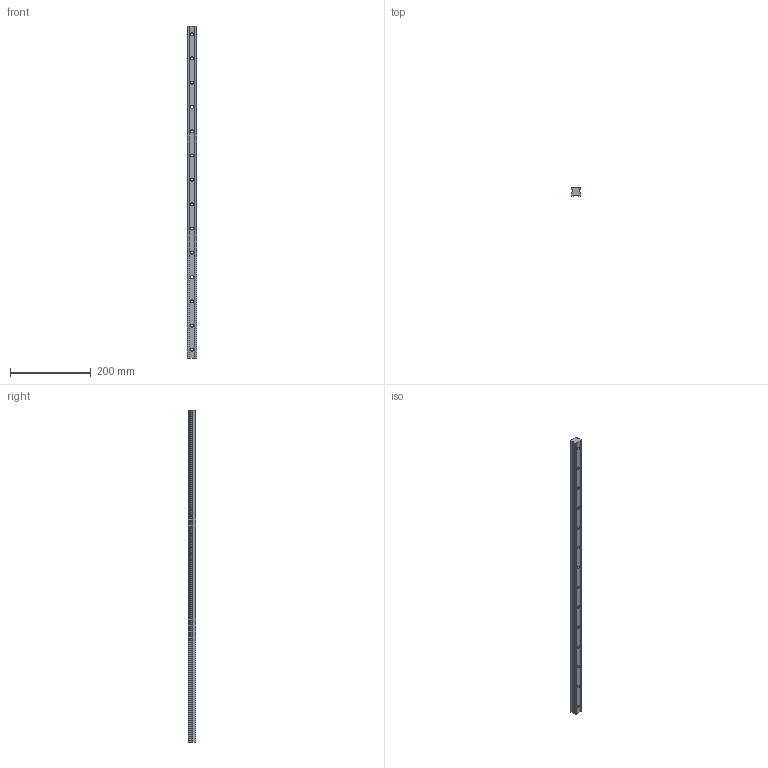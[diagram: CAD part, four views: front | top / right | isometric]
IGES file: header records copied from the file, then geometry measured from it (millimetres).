
Start section: SolidWorks IGES file using analytic representation for surfaces
Global section: file name: C:\Users\IanO\Desktop\L1016_v2\L1016.BL25_v2\L1016.BL25_v2_20160611_IGES\L1016.BL25-0820.igs; native system: SolidWorks 2017; preprocessor: SolidWorks 2017; author: IanO; date: 190612.130557; units: millimetre
Bounding box: 23 x 19.2 x 820 mm (x, y, z)
Surface area: 78251.1 mm2 (no closed solid volume)
Topology: 0 solids, 0 shells, 96 faces, 2184 edges, 2184 vertices
Faces by surface type: revolution 60, bspline 36
